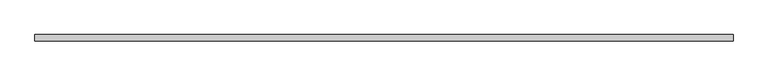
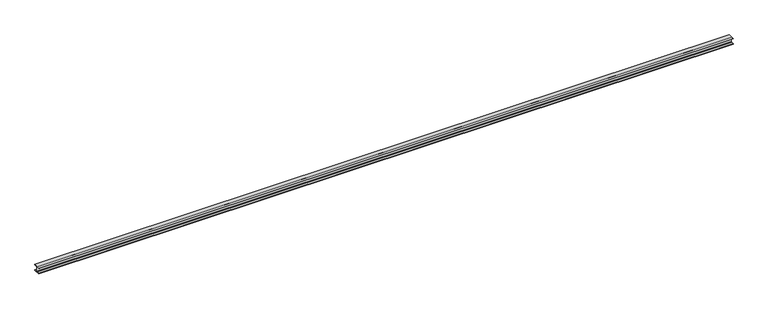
"""IFC4 building model written with IfcOpenShell, lengths in millimetres: beam geometry, Membrure Haute 48064 : Membrure Haute 48064."""

from ifc_helpers import new_model, si_unit, frame, origin, place, context, project, spatial, polyline, outline, extrude, source, transform, mapped, element, save


def beam_949ceba1(model_context):
    return source(origin(), model_context, "Body", "SweptSolid", [
        extrude(outline(polyline([(-23656.0, 7285.5), (-23600.75, 7285.5), (-23588.75, 7297.5), (-23588.75, 7389.5), (-23600.75, 7401.5), (-23656.0, 7401.5), (-23656.0, 7410.0), (-23516.0, 7410.0), (-23516.0, 7401.5), (-23571.25, 7401.5), (-23583.25, 7389.5), (-23583.25, 7297.5), (-23571.25, 7285.5), (-23516.0, 7285.5), (-23516.0, 7277.0), (-23656.0, 7277.0), (-23656.0, 7285.5)])), frame((-43.5000001, 0.0, 0.0), z_axis=(1.0, 0.0, 0.0), x_axis=(0.0, 1.0, 0.0)), (0.0, 0.0, 1.0), 15433.5),
    ])


if __name__ == "__main__":
    model = new_model("IFC4")
    model_context = context("Model", 3, world=origin())
    ifc_project = project(units=[si_unit("LENGTHUNIT", "METRE", prefix="MILLI")], contexts=[model_context])
    site = spatial("IfcSite", under=ifc_project)
    building = spatial("IfcBuilding", under=site)
    placement = place(None, origin())
    beam_shape = beam_949ceba1(model_context)
    element("IfcBeam", 1, ObjectType="Membrure Haute 48064 : Membrure Haute 48064", at=placement, inside=building, context=model_context, shape_type="MappedRepresentation", body=[
        mapped(beam_shape, transform((0.0, 0.0, 0.0), x_axis=(1.0, 0.0, 0.0), y_axis=(0.0, 1.0, 0.0), z_axis=(0.0, 0.0, 1.0))),
    ])
    save(model, "model.ifc")
